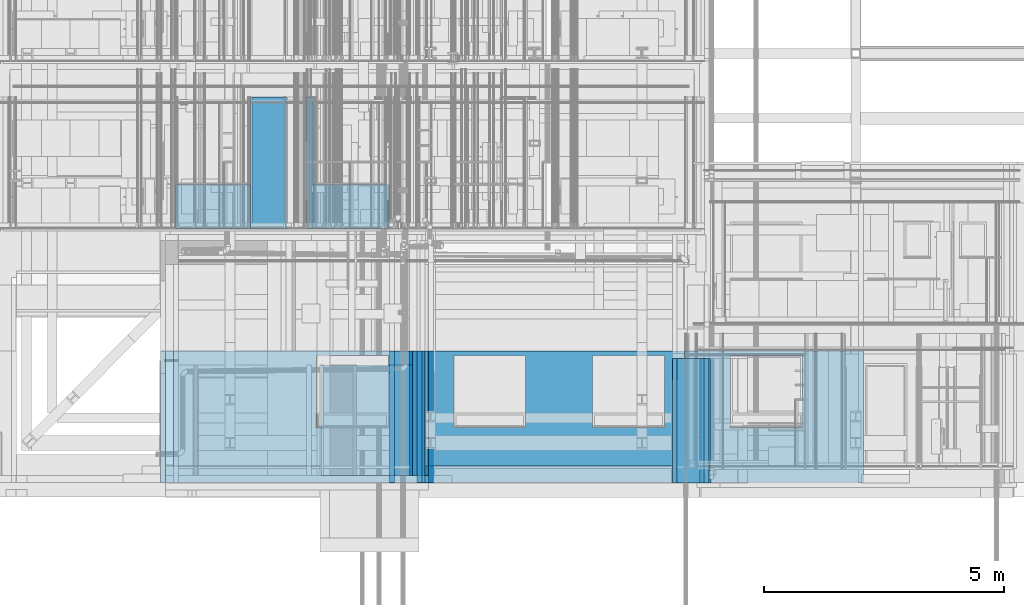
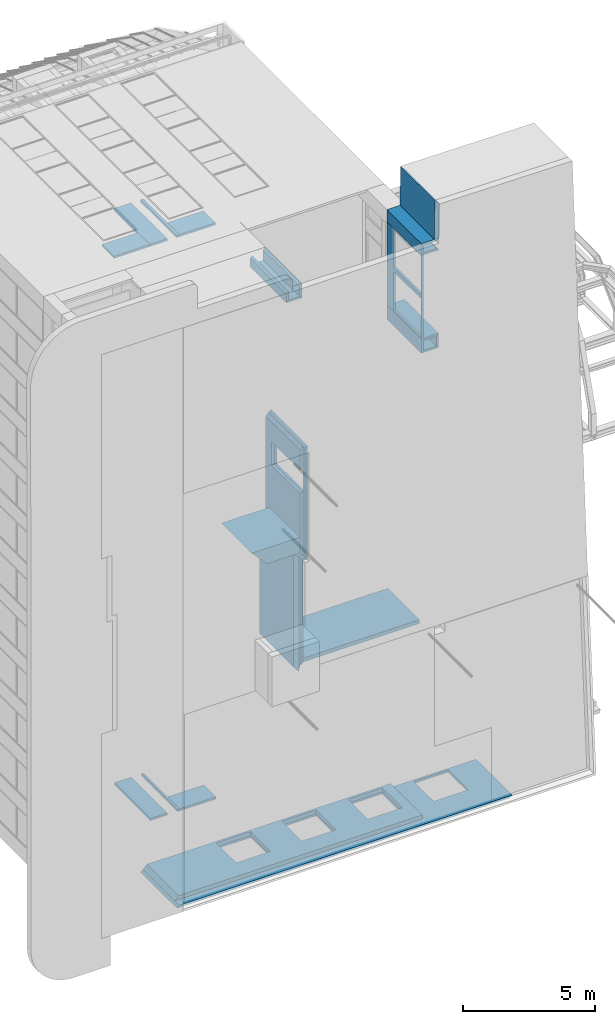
# One storey, part 12 of 583: 30 walls, 18 openings.
"""IFC2X3 building model written with IfcOpenShell, lengths in metres."""

from ifc_helpers import new_model, entity, si_unit, converted_unit, derived_unit, money_unit, direction, frame, frame_2d, origin_with_axes, place, context, subcontext, project, spatial, polyline, rectangle, outline, extrude, material, type_object, element, save


model = new_model("IFC2X3")

# Units and contexts
model_context = context("Model", 3, precision=1e-05, world=origin_with_axes(), true_north=direction((0.0, 1.0)))
body_context = subcontext(model_context, "Body", "Model", "MODEL_VIEW", scale=1.0)
ifc_project = project(units=[si_unit("LENGTHUNIT", "METRE"), si_unit("AREAUNIT", "SQUARE_METRE"), si_unit("VOLUMEUNIT", "CUBIC_METRE"), si_unit("ABSORBEDDOSEUNIT", "GRAY"), si_unit("AMOUNTOFSUBSTANCEUNIT", "MOLE"), si_unit("DOSEEQUIVALENTUNIT", "SIEVERT"), si_unit("ELECTRICCAPACITANCEUNIT", "FARAD"), si_unit("ELECTRICCHARGEUNIT", "COULOMB"), si_unit("ELECTRICCONDUCTANCEUNIT", "SIEMENS"), si_unit("ELECTRICCURRENTUNIT", "AMPERE"), si_unit("ELECTRICRESISTANCEUNIT", "OHM"), si_unit("ELECTRICVOLTAGEUNIT", "VOLT"), si_unit("ENERGYUNIT", "JOULE"), si_unit("FORCEUNIT", "NEWTON"), si_unit("FREQUENCYUNIT", "HERTZ"), si_unit("ILLUMINANCEUNIT", "LUX"), si_unit("INDUCTANCEUNIT", "HENRY"), si_unit("LUMINOUSFLUXUNIT", "LUMEN"), si_unit("LUMINOUSINTENSITYUNIT", "CANDELA"), si_unit("MAGNETICFLUXDENSITYUNIT", "TESLA"), si_unit("MAGNETICFLUXUNIT", "WEBER"), si_unit("MASSUNIT", "GRAM"), converted_unit("PLANEANGLEUNIT", "degree", entity("IfcReal", 0.0174532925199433), si_unit("PLANEANGLEUNIT", "RADIAN"), dimensions=[0, 0, 0, 0, 0, 0, 0]), si_unit("POWERUNIT", "WATT"), si_unit("PRESSUREUNIT", "PASCAL"), si_unit("RADIOACTIVITYUNIT", "BECQUEREL"), si_unit("SOLIDANGLEUNIT", "STERADIAN"), si_unit("THERMODYNAMICTEMPERATUREUNIT", "KELVIN"), si_unit("TIMEUNIT", "SECOND"), derived_unit("ACCELERATIONUNIT", [(si_unit("LENGTHUNIT", "METRE"), 1), (si_unit("TIMEUNIT", "SECOND"), -2)]), derived_unit("ANGULARVELOCITYUNIT", [(converted_unit("PLANEANGLEUNIT", "degree", entity("IfcReal", 0.0174532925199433), si_unit("PLANEANGLEUNIT", "RADIAN"), dimensions=[0, 0, 0, 0, 0, 0, 0]), 1), (si_unit("TIMEUNIT", "SECOND"), -1)]), derived_unit("CURVATUREUNIT", [(converted_unit("PLANEANGLEUNIT", "degree", entity("IfcReal", 0.0174532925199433), si_unit("PLANEANGLEUNIT", "RADIAN"), dimensions=[0, 0, 0, 0, 0, 0, 0]), 1), (si_unit("LENGTHUNIT", "METRE"), -1)]), derived_unit("DYNAMICVISCOSITYUNIT", [(si_unit("PRESSUREUNIT", "PASCAL"), 1), (si_unit("TIMEUNIT", "SECOND"), 1)]), derived_unit("HEATFLUXDENSITYUNIT", [(si_unit("POWERUNIT", "WATT"), 1), (si_unit("LENGTHUNIT", "METRE"), -2)]), derived_unit("HEATINGVALUEUNIT", [(si_unit("ENERGYUNIT", "JOULE"), 1), (si_unit("MASSUNIT", "GRAM"), -1)]), derived_unit("INTEGERCOUNTRATEUNIT", [(si_unit("TIMEUNIT", "SECOND"), -1)]), derived_unit("IONCONCENTRATIONUNIT", [(si_unit("MASSUNIT", "GRAM"), 1), (si_unit("VOLUMEUNIT", "CUBIC_METRE"), -1)]), derived_unit("ISOTHERMALMOISTURECAPACITYUNIT", [(si_unit("VOLUMEUNIT", "CUBIC_METRE"), 1), (si_unit("MASSUNIT", "GRAM"), -1)]), derived_unit("KINEMATICVISCOSITYUNIT", [(si_unit("AREAUNIT", "SQUARE_METRE"), 1), (si_unit("TIMEUNIT", "SECOND"), -1)]), derived_unit("LINEARFORCEUNIT", [(si_unit("FORCEUNIT", "NEWTON"), 1), (si_unit("LENGTHUNIT", "METRE"), -1)]), derived_unit("LINEARMOMENTUNIT", [(si_unit("FORCEUNIT", "NEWTON"), 1), (si_unit("LENGTHUNIT", "METRE"), -1)]), derived_unit("LINEARSTIFFNESSUNIT", [(si_unit("FORCEUNIT", "NEWTON"), 1), (si_unit("LENGTHUNIT", "METRE"), -1)]), derived_unit("LINEARVELOCITYUNIT", [(si_unit("LENGTHUNIT", "METRE"), 1), (si_unit("TIMEUNIT", "SECOND"), -1)]), derived_unit("LUMINOUSINTENSITYDISTRIBUTIONUNIT", [(si_unit("LUMINOUSINTENSITYUNIT", "CANDELA"), 1), (si_unit("LUMINOUSFLUXUNIT", "LUMEN"), -1)]), derived_unit("MASSDENSITYUNIT", [(si_unit("MASSUNIT", "GRAM"), 1), (si_unit("VOLUMEUNIT", "CUBIC_METRE"), -1)]), derived_unit("MASSFLOWRATEUNIT", [(si_unit("MASSUNIT", "GRAM"), 1), (si_unit("TIMEUNIT", "SECOND"), -1)]), derived_unit("MASSPERLENGTHUNIT", [(si_unit("MASSUNIT", "GRAM"), 1), (si_unit("LENGTHUNIT", "METRE"), -1)]), derived_unit("MODULUSOFELASTICITYUNIT", [(si_unit("FORCEUNIT", "NEWTON"), 1), (si_unit("AREAUNIT", "SQUARE_METRE"), -1)]), derived_unit("MODULUSOFLINEARSUBGRADEREACTIONUNIT", [(si_unit("FORCEUNIT", "NEWTON"), 1), (si_unit("LENGTHUNIT", "METRE"), -2)]), derived_unit("MODULUSOFROTATIONALSUBGRADEREACTIONUNIT", [(si_unit("FORCEUNIT", "NEWTON"), 1), (si_unit("LENGTHUNIT", "METRE"), 1)]), derived_unit("MODULUSOFSUBGRADEREACTIONUNIT", [(si_unit("FORCEUNIT", "NEWTON"), 1), (si_unit("VOLUMEUNIT", "CUBIC_METRE"), -1)]), derived_unit("MOISTUREDIFFUSIVITYUNIT", [(si_unit("VOLUMEUNIT", "CUBIC_METRE"), 1), (si_unit("TIMEUNIT", "SECOND"), -1)]), derived_unit("MOLECULARWEIGHTUNIT", [(si_unit("MASSUNIT", "GRAM"), 1), (si_unit("AMOUNTOFSUBSTANCEUNIT", "MOLE"), -1)]), derived_unit("PLANARFORCEUNIT", [(si_unit("FORCEUNIT", "NEWTON"), 1), (si_unit("LENGTHUNIT", "METRE"), -2)]), derived_unit("ROTATIONALFREQUENCYUNIT", [(si_unit("TIMEUNIT", "SECOND"), -1)]), derived_unit("ROTATIONALMASSUNIT", [(si_unit("MASSUNIT", "GRAM"), 1), (si_unit("LENGTHUNIT", "METRE"), 2)]), derived_unit("ROTATIONALSTIFFNESSUNIT", [(si_unit("FORCEUNIT", "NEWTON"), 1), (si_unit("LENGTHUNIT", "METRE"), 1), (converted_unit("PLANEANGLEUNIT", "degree", entity("IfcReal", 0.0174532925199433), si_unit("PLANEANGLEUNIT", "RADIAN"), dimensions=[0, 0, 0, 0, 0, 0, 0]), -1)]), derived_unit("SECTIONAREAINTEGRALUNIT", [(si_unit("LENGTHUNIT", "METRE"), 5)]), derived_unit("SECTIONMODULUSUNIT", [(si_unit("LENGTHUNIT", "METRE"), 3)]), derived_unit("SHEARMODULUSUNIT", [(si_unit("FORCEUNIT", "NEWTON"), 1), (si_unit("AREAUNIT", "SQUARE_METRE"), -1)]), derived_unit("SOUNDPOWERUNIT", [(si_unit("ENERGYUNIT", "JOULE"), 1), (si_unit("TIMEUNIT", "SECOND"), -1)]), derived_unit("SPECIFICHEATCAPACITYUNIT", [(si_unit("FORCEUNIT", "NEWTON"), 1), (si_unit("MASSUNIT", "GRAM"), -1), (si_unit("THERMODYNAMICTEMPERATUREUNIT", "KELVIN"), -1)]), derived_unit("TEMPERATUREGRADIENTUNIT", [(si_unit("THERMODYNAMICTEMPERATUREUNIT", "KELVIN"), 1), (si_unit("LENGTHUNIT", "METRE"), -1)]), derived_unit("THERMALADMITTANCEUNIT", [(si_unit("POWERUNIT", "WATT"), 1), (si_unit("AREAUNIT", "SQUARE_METRE"), -1), (si_unit("THERMODYNAMICTEMPERATUREUNIT", "KELVIN"), -1)]), derived_unit("THERMALCONDUCTANCEUNIT", [(si_unit("POWERUNIT", "WATT"), 1), (si_unit("LENGTHUNIT", "METRE"), -1), (si_unit("THERMODYNAMICTEMPERATUREUNIT", "KELVIN"), -1)]), derived_unit("THERMALEXPANSIONCOEFFICIENTUNIT", [(si_unit("THERMODYNAMICTEMPERATUREUNIT", "KELVIN"), -1)]), derived_unit("THERMALRESISTANCEUNIT", [(si_unit("AREAUNIT", "SQUARE_METRE"), 1), (si_unit("POWERUNIT", "WATT"), -1)]), derived_unit("THERMALTRANSMITTANCEUNIT", [(si_unit("POWERUNIT", "WATT"), 1), (si_unit("AREAUNIT", "SQUARE_METRE"), -1), (si_unit("THERMODYNAMICTEMPERATUREUNIT", "KELVIN"), -1)]), derived_unit("TORQUEUNIT", [(si_unit("FORCEUNIT", "NEWTON"), 1), (si_unit("LENGTHUNIT", "METRE"), 1)]), derived_unit("VAPORPERMEABILITYUNIT", [(si_unit("MASSUNIT", "GRAM"), 1), (si_unit("TIMEUNIT", "SECOND"), -1)]), derived_unit("VOLUMETRICFLOWRATEUNIT", [(si_unit("VOLUMEUNIT", "CUBIC_METRE"), 1), (si_unit("TIMEUNIT", "SECOND"), -1)]), derived_unit("WARPINGCONSTANTUNIT", [(si_unit("LENGTHUNIT", "METRE"), 6)]), derived_unit("WARPINGMOMENTUNIT", [(si_unit("FORCEUNIT", "NEWTON"), 1), (si_unit("LENGTHUNIT", "METRE"), 2)]), money_unit("GBP")], contexts=[model_context])

# Site, building, storey
site_placement = place(None, origin_with_axes())
site = spatial("IfcSite", under=ifc_project, at=site_placement, Name="Site", CompositionType="ELEMENT")
building_placement = place(site_placement, origin_with_axes())
building = spatial("IfcBuilding", under=site, at=building_placement, Name="Building01", CompositionType="ELEMENT")
storey_placement = place(building_placement, frame((0.0, 0.0, 20.78), z_axis=(0.0, 0.0, 1.0), x_axis=(1.0, 0.0, 0.0)))
storey = spatial("IfcBuildingStorey", under=building, at=storey_placement, Name="RL", CompositionType="ELEMENT", Elevation=20.78)

# Walls
ifc_material_1 = material(Name="A_BSUK_WallsExternal_Brick")
wall_type_1 = type_object("IfcWallType", Name="A-Walls-ExternalBrick", PredefinedType="NOTDEFINED")
wall_1_placement = place(storey_placement, frame((8.909531, -0.16, 6.201285), z_axis=(0.0, 1.0, 0.0), x_axis=(0.0, 0.0, -1.0)))
element("IfcWall", 1, at=wall_1_placement, inside=storey, type_object=wall_type_1, material=ifc_material_1, Name="A-Walls-ExternalBrick", ObjectType="A-Walls-ExternalBrick", context=body_context, shape_type="SweptSolid", body=[
    extrude(outline(polyline([(0.567106, 0.1), (0.1, 0.1), (0.0, 0.0), (0.667106, 0.0), (0.567106, 0.1)])), origin_with_axes(), (0.0, 0.0, 1.0), 2.76),
])
wall_2_placement = place(storey_placement, frame((8.909531, -0.16, 5.534179), z_axis=(0.0, 1.0, 0.0), x_axis=(-1.0, 0.0, 0.0)))
element("IfcWall", 2, at=wall_2_placement, inside=storey, type_object=wall_type_1, material=ifc_material_1, Name="A-Walls-ExternalBrick", ObjectType="A-Walls-ExternalBrick", context=body_context, shape_type="SweptSolid", body=[
    extrude(outline(polyline([(0.571773, 0.1), (0.1, 0.1), (0.0, 0.0), (0.671773, 0.0), (0.571773, 0.1)])), origin_with_axes(), (0.0, 0.0, 1.0), 2.76),
])
wall_3_placement = place(storey_placement, frame((8.237758, -0.16, 5.534179), z_axis=(0.0, 1.0, 0.0), x_axis=(0.0, 0.0, 1.0)))
element("IfcWall", 3, at=wall_3_placement, inside=storey, type_object=wall_type_1, material=ifc_material_1, Name="A-Walls-ExternalBrick", ObjectType="A-Walls-ExternalBrick", context=body_context, shape_type="SweptSolid", body=[
    extrude(outline(polyline([(0.481054, 0.1), (0.1, 0.1), (0.0, 0.0), (0.38105, 0.0), (0.481054, 0.1)])), origin_with_axes(), (0.0, 0.0, 1.0), 2.76),
])
wall_4_placement = place(storey_placement, frame((8.971346, -0.16, -6.607653), z_axis=(0.0, 1.0, 0.0), x_axis=(3.756e-05, 0.0, -1.0)))
element("IfcWall", 4, at=wall_4_placement, inside=storey, type_object=wall_type_1, material=ifc_material_1, Name="A-Walls-ExternalBrick", ObjectType="A-Walls-ExternalBrick", context=body_context, shape_type="SweptSolid", body=[
    extrude(outline(polyline([(4.829309, 0.1), (-0.1, 0.1), (0.0, 0.0), (4.729309, 0.0), (4.829309, 0.1)])), origin_with_axes(), (0.0, 0.0, 1.0), 2.76),
])

# Wall, openings
wall_5_placement = place(storey_placement, frame((18.020229, -0.145, -20.779323), z_axis=(0.0, 1.0, 0.0), x_axis=(-1.0, 0.0, -3.756e-05)))
wall_5 = element("IfcWall", 5, at=wall_5_placement, inside=storey, type_object=wall_type_1, material=ifc_material_1, Name="A-Walls-ExternalBrick", ObjectType="A-Walls-ExternalBrick", context=body_context, shape_type="SweptSolid", body=[
    extrude(outline(polyline([(14.460712, 0.1), (-0.100004, 0.1), (0.0, 0.0), (14.560712, 0.0), (14.460712, 0.1)])), origin_with_axes(), (0.0, 0.0, 1.0), 2.745),
])
opening_1_placement = place(wall_5_placement, frame((6.944761, 0.0, 1.143), z_axis=(0.0, 0.0, 1.0), x_axis=(1.0, 0.0, 0.0)))
element("IfcOpeningElement", 6, at=opening_1_placement, cuts=wall_5, Name="Opening", ObjectType="Opening", context=body_context, shape_type="SweptSolid", body=[
    extrude(rectangle(XDim=0.3, YDim=1.5, at=frame_2d((-0.75, 0.15), x_axis=(0.0, -1.0))), frame((0.0, 0.0, 0.0), z_axis=(0.0, 1.0, 0.0), x_axis=(-1.0, 0.0, 0.0)), (3.756e-05, 0.0, 1.0), 0.1),
])
opening_2_placement = place(wall_5_placement, frame((9.80949, 0.0, 1.443), z_axis=(0.0, 0.0, 1.0), x_axis=(1.0, 0.0, 0.0)))
element("IfcOpeningElement", 7, at=opening_2_placement, cuts=wall_5, Name="Opening", ObjectType="Opening", context=body_context, shape_type="SweptSolid", body=[
    extrude(rectangle(XDim=1.2, YDim=1.5, at=frame_2d((-0.75, 0.6), x_axis=(0.0, -1.0))), frame((0.0, 0.0, 0.0), z_axis=(0.0, 1.0, 0.0), x_axis=(-1.0, 0.0, 0.0)), (3.756e-05, 0.0, 1.0), 0.1),
])
opening_3_placement = place(wall_5_placement, frame((9.80949, 0.0, 1.143), z_axis=(0.0, 0.0, 1.0), x_axis=(1.0, 0.0, 0.0)))
element("IfcOpeningElement", 8, at=opening_3_placement, cuts=wall_5, Name="Opening", ObjectType="Opening", context=body_context, shape_type="SweptSolid", body=[
    extrude(rectangle(XDim=0.3, YDim=1.5, at=frame_2d((-0.75, 0.15), x_axis=(0.0, -1.0))), frame((0.0, 0.0, 0.0), z_axis=(0.0, 1.0, 0.0), x_axis=(-1.0, 0.0, 0.0)), (3.756e-05, 0.0, 1.0), 0.1),
])
opening_4_placement = place(wall_5_placement, frame((6.944761, 0.0, 1.443), z_axis=(0.0, 0.0, 1.0), x_axis=(1.0, 0.0, 0.0)))
element("IfcOpeningElement", 9, at=opening_4_placement, cuts=wall_5, Name="Opening", ObjectType="Opening", context=body_context, shape_type="SweptSolid", body=[
    extrude(rectangle(XDim=1.2, YDim=1.5, at=frame_2d((-0.75, 0.6), x_axis=(0.0, -1.0))), frame((0.0, 0.0, 0.0), z_axis=(0.0, 1.0, 0.0), x_axis=(-1.0, 0.0, 0.0)), (3.756e-05, 0.0, 1.0), 0.1),
])
opening_5_placement = place(wall_5_placement, frame((4.051236, 0.0, 1.143), z_axis=(0.0, 0.0, 1.0), x_axis=(1.0, 0.0, 0.0)))
element("IfcOpeningElement", 10, at=opening_5_placement, cuts=wall_5, Name="Opening", ObjectType="Opening", context=body_context, shape_type="SweptSolid", body=[
    extrude(rectangle(XDim=0.3, YDim=1.5, at=frame_2d((-0.75, 0.15), x_axis=(0.0, -1.0))), frame((0.0, 0.0, 0.0), z_axis=(0.0, 1.0, 0.0), x_axis=(-1.0, 0.0, 0.0)), (3.756e-05, 0.0, 1.0), 0.1),
])
opening_6_placement = place(wall_5_placement, frame((4.051236, 0.0, 1.443), z_axis=(0.0, 0.0, 1.0), x_axis=(1.0, 0.0, 0.0)))
element("IfcOpeningElement", 11, at=opening_6_placement, cuts=wall_5, Name="Opening", ObjectType="Opening", context=body_context, shape_type="SweptSolid", body=[
    extrude(rectangle(XDim=1.2, YDim=1.5, at=frame_2d((-0.75, 0.6), x_axis=(0.0, -1.0))), frame((0.0, 0.0, 0.0), z_axis=(0.0, 1.0, 0.0), x_axis=(-1.0, 0.0, 0.0)), (3.756e-05, 0.0, 1.0), 0.1),
])
opening_7_placement = place(wall_5_placement, frame((1.177439, 0.0, 1.443), z_axis=(0.0, 0.0, 1.0), x_axis=(1.0, 0.0, 0.0)))
element("IfcOpeningElement", 12, at=opening_7_placement, cuts=wall_5, Name="Opening", ObjectType="Opening", context=body_context, shape_type="SweptSolid", body=[
    extrude(rectangle(XDim=1.2, YDim=1.5, at=frame_2d((-0.75, 0.6), x_axis=(0.0, -1.0))), frame((0.0, 0.0, 0.0), z_axis=(0.0, 1.0, 0.0), x_axis=(-1.0, 0.0, 0.0)), (3.756e-05, 0.0, 1.0), 0.1),
])
opening_8_placement = place(wall_5_placement, frame((1.177439, 0.0, 1.143), z_axis=(0.0, 0.0, 1.0), x_axis=(1.0, 0.0, 0.0)))
element("IfcOpeningElement", 13, at=opening_8_placement, cuts=wall_5, Name="Opening", ObjectType="Opening", context=body_context, shape_type="SweptSolid", body=[
    extrude(rectangle(XDim=0.3, YDim=1.5, at=frame_2d((-0.75, 0.15), x_axis=(0.0, -1.0))), frame((0.0, 0.0, 0.0), z_axis=(0.0, 1.0, 0.0), x_axis=(-1.0, 0.0, 0.0)), (3.756e-05, 0.0, 1.0), 0.1),
])

# Walls
wall_6_placement = place(storey_placement, frame((14.897172, -0.16, 1.791797), z_axis=(0.0, 1.0, 0.0), x_axis=(0.0, 0.0, -1.0)))
element("IfcWall", 14, at=wall_6_placement, inside=storey, type_object=wall_type_1, material=ifc_material_1, Name="A-Walls-ExternalBrick", ObjectType="A-Walls-ExternalBrick", context=body_context, shape_type="SweptSolid", body=[
    extrude(outline(polyline([(0.553641, 0.1), (0.0993, 0.1), (0.0, 0.0), (0.653638, 0.0), (0.553641, 0.1)])), origin_with_axes(), (0.0, 0.0, 1.0), 2.6),
])
wall_7_placement = place(storey_placement, frame((14.897172, -0.16, 1.13816), z_axis=(0.0, 1.0, 0.0), x_axis=(-1.0, 0.0, -3.756e-05)))
element("IfcWall", 15, at=wall_7_placement, inside=storey, type_object=wall_type_1, material=ifc_material_1, Name="A-Walls-ExternalBrick", ObjectType="A-Walls-ExternalBrick", context=body_context, shape_type="SweptSolid", body=[
    extrude(outline(polyline([(0.662872, 0.1), (0.099996, 0.1), (0.0, 0.0), (0.762876, 0.0), (0.662872, 0.1)])), origin_with_axes(), (0.0, 0.0, 1.0), 2.6),
])
wall_8_placement = place(storey_placement, frame((14.134296, -0.16, 1.138131), z_axis=(0.0, 1.0, 0.0), x_axis=(0.0, 0.0, 1.0)))
element("IfcWall", 16, at=wall_8_placement, inside=storey, type_object=wall_type_1, material=ifc_material_1, Name="A-Walls-ExternalBrick", ObjectType="A-Walls-ExternalBrick", context=body_context, shape_type="SweptSolid", body=[
    extrude(outline(polyline([(0.558318, 0.1), (0.100004, 0.1), (0.0, 0.0), (0.659023, 0.0), (0.558318, 0.1)])), origin_with_axes(), (0.0, 0.0, 1.0), 2.6),
])
wall_9_placement = place(storey_placement, frame((14.134296, -0.16, 1.797154), z_axis=(0.0, 1.0, 0.0), x_axis=(0.99997535, 0.0, -0.00702115)))
element("IfcWall", 17, at=wall_9_placement, inside=storey, type_object=wall_type_1, material=ifc_material_1, Name="A-Walls-ExternalBrick", ObjectType="A-Walls-ExternalBrick", context=body_context, shape_type="SweptSolid", body=[
    extrude(outline(polyline([(0.663594, 0.1), (0.100705, 0.1), (0.0, 0.0), (0.762895, 0.0), (0.663594, 0.1)])), origin_with_axes(), (0.0, 0.0, 1.0), 2.6),
])
wall_10_placement = place(storey_placement, frame((14.906552, -0.16, 5.649767), z_axis=(0.0, 1.0, 0.0), x_axis=(-1.0, 0.0, -5.782e-05)))
element("IfcWall", 18, at=wall_10_placement, inside=storey, type_object=wall_type_1, material=ifc_material_1, Name="A-Walls-ExternalBrick", ObjectType="A-Walls-ExternalBrick", context=body_context, shape_type="SweptSolid", body=[
    extrude(outline(polyline([(0.672426, 0.1), (0.09852, 0.1), (0.0, 0.0), (0.772426, 0.0), (0.672426, 0.1)])), origin_with_axes(), (0.0, 0.0, 1.0), 2.6),
])
wall_11_placement = place(storey_placement, frame((14.134126, -0.16, 5.649722), z_axis=(0.0, 1.0, 0.0), x_axis=(-5.782e-05, 0.0, 1.0)))
element("IfcWall", 19, at=wall_11_placement, inside=storey, type_object=wall_type_1, material=ifc_material_1, Name="A-Walls-ExternalBrick", ObjectType="A-Walls-ExternalBrick", context=body_context, shape_type="SweptSolid", body=[
    extrude(outline(polyline([(0.451923, 0.1), (0.1, 0.1), (0.0, 0.0), (0.551917, 0.0), (0.451923, 0.1)])), origin_with_axes(), (0.0, 0.0, 1.0), 2.6),
])
wall_12_placement = place(storey_placement, frame((14.134094, -0.16, 6.201639), z_axis=(0.0, 1.0, 0.0), x_axis=(0.99999999, 0.0, 0.00011969)))
element("IfcWall", 20, at=wall_12_placement, inside=storey, type_object=wall_type_1, material=ifc_material_1, Name="A-Walls-ExternalBrick", ObjectType="A-Walls-ExternalBrick", context=body_context, shape_type="SweptSolid", body=[
    extrude(outline(polyline([(0.679146, 0.1), (0.099994, 0.1), (0.0, 0.0), (0.780654, 0.0), (0.679146, 0.1)])), origin_with_axes(), (0.0, 0.0, 1.0), 2.6),
])

# Wall, openings
wall_13_placement = place(storey_placement, frame((14.134271, -0.16, 1.797154), z_axis=(0.0, 1.0, 0.0), x_axis=(-3.756e-05, 0.0, 1.0)))
wall_13 = element("IfcWall", 21, at=wall_13_placement, inside=storey, type_object=wall_type_1, material=ifc_material_1, Name="A-Walls-ExternalBrick", ObjectType="A-Walls-ExternalBrick", context=body_context, shape_type="SweptSolid", body=[
    extrude(outline(polyline([(3.85257, 0.1), (-0.000706, 0.1), (0.0, 0.0), (3.852568, 0.0), (3.85257, 0.1)])), origin_with_axes(), (0.0, 0.0, 1.0), 2.6),
])
opening_9_placement = place(wall_13_placement, frame((0.057998, 0.1, 0.023), z_axis=(0.0, 0.0, 1.0), x_axis=(1.0, 0.0, 0.0)))
element("IfcOpeningElement", 22, at=opening_9_placement, cuts=wall_13, Name="Opening", ObjectType="Opening", context=body_context, shape_type="SweptSolid", body=[
    extrude(rectangle(XDim=2.1, YDim=1.784, at=frame_2d((0.892, 1.05), x_axis=(0.0, -1.0))), frame((0.0, 0.0, 0.0), z_axis=(0.0, -1.0, 0.0), x_axis=(1.0, 0.0, 0.0)), (0.0, 0.0, 1.0), 0.1),
])
opening_10_placement = place(wall_13_placement, frame((2.043034, 0.1, 0.023), z_axis=(0.0, 0.0, 1.0), x_axis=(1.0, 0.0, 0.0)))
element("IfcOpeningElement", 23, at=opening_10_placement, cuts=wall_13, Name="Opening", ObjectType="Opening", context=body_context, shape_type="SweptSolid", body=[
    extrude(rectangle(XDim=2.1, YDim=1.784, at=frame_2d((0.892, 1.05), x_axis=(0.0, -1.0))), frame((0.0, 0.0, 0.0), z_axis=(0.0, -1.0, 0.0), x_axis=(1.0, 0.0, 0.0)), (0.0, 0.0, 1.0), 0.1),
])

# Wall
wall_14_placement = place(storey_placement, frame((14.702806, -0.16, 6.201707), z_axis=(0.0, 1.0, 0.0), x_axis=(0.01444505, 0.0, 0.99989566)))
element("IfcWall", 24, at=wall_14_placement, inside=storey, type_object=wall_type_1, material=ifc_material_1, Name="A-Walls-ExternalBrick", ObjectType="A-Walls-ExternalBrick", context=body_context, shape_type="SweptSolid", body=[
    extrude(outline(polyline([(1.587336, 0.215), (0.003132, 0.215), (0.0, 0.0), (1.800808, 0.0), (1.587336, 0.215)])), origin_with_axes(), (0.0, 0.0, 1.0), 2.6),
])

# Wall, opening
ifc_material_2 = material(Name="A_BSUK_WallsExternal_Block")
wall_type_2 = type_object("IfcWallType", Name="A-Walls-ExternalBlock", PredefinedType="NOTDEFINED")
wall_15_placement = place(storey_placement, frame((9.152854, -0.16, -1.377025), z_axis=(0.0, 1.0, 0.0), x_axis=(3.756e-05, 0.0, -1.0)))
wall_15 = element("IfcWall", 25, at=wall_15_placement, inside=storey, type_object=wall_type_2, material=ifc_material_2, Name="A-Walls-ExternalBlock", ObjectType="A-Walls-ExternalBlock", context=body_context, shape_type="SweptSolid", body=[
    extrude(outline(polyline([(5.130622, 0.1), (0.1, 0.1), (0.0, 0.0), (5.230622, 0.0), (5.130622, 0.1)])), origin_with_axes(), (0.0, 0.0, 1.0), 2.76),
])
opening_11_placement = place(wall_15_placement, frame((1.142409, 0.0, 0.16), z_axis=(0.0, 0.0, 1.0), x_axis=(1.0, 0.0, 0.0)))
element("IfcOpeningElement", 26, at=opening_11_placement, cuts=wall_15, Name="Opening", ObjectType="Opening", context=body_context, shape_type="SweptSolid", body=[
    extrude(rectangle(XDim=1.084, YDim=2.142, at=frame_2d((-0.542, 1.071), x_axis=(-1.0, 0.0))), frame((0.0, 0.0, 0.0), z_axis=(0.0, 1.0, 0.0), x_axis=(-1.0, 0.0, 0.0)), (3.756e-05, 0.0, 1.0), 0.1),
])

# Walls
wall_16_placement = place(storey_placement, frame((9.15305, -0.16, -6.607646), z_axis=(0.0, 1.0, 0.0), x_axis=(-1.0, 0.0, -3.756e-05)))
element("IfcWall", 27, at=wall_16_placement, inside=storey, type_object=wall_type_2, material=ifc_material_2, Name="A-Walls-ExternalBlock", ObjectType="A-Walls-ExternalBlock", context=body_context, shape_type="SweptSolid", body=[
    extrude(outline(polyline([(0.281704, 0.1), (0.1, 0.1), (0.0, 0.0), (0.181704, 0.0), (0.281704, 0.1)])), origin_with_axes(), (0.0, 0.0, 1.0), 2.76),
])
wall_17_placement = place(storey_placement, frame((14.271539, 0.198, -11.606873), z_axis=(0.0, 1.0, 0.0), x_axis=(-1.0, 0.0, 0.0)))
element("IfcWall", 28, at=wall_17_placement, inside=storey, type_object=wall_type_2, material=ifc_material_2, Name="A-Walls-ExternalBlock", ObjectType="A-Walls-ExternalBlock", context=body_context, shape_type="SweptSolid", body=[
    extrude(outline(polyline([(5.400398, 0.17), (0.0, 0.17), (0.0, 0.0), (5.236398, 0.0), (5.400398, 0.17)])), origin_with_axes(), (0.0, 0.0, 1.0), 2.402),
])
wall_18_placement = place(storey_placement, frame((9.035141, 0.198, -11.606873), z_axis=(0.0, 1.0, 0.0), x_axis=(0.0, 0.0, -1.0)))
element("IfcWall", 29, at=wall_18_placement, inside=storey, type_object=wall_type_2, material=ifc_material_2, Name="A-Walls-ExternalBlock", ObjectType="A-Walls-ExternalBlock", context=body_context, shape_type="SweptSolid", body=[
    extrude(outline(polyline([(-0.17, 0.164), (0.0, 0.0), (0.207627, 0.0), (0.207627, 0.164), (-0.17, 0.164)])), origin_with_axes(), (0.0, 0.0, 1.0), 2.402),
])

# Wall, openings
wall_19_placement = place(storey_placement, frame((3.733332, 0.198, -20.499643), z_axis=(0.0, 1.0, 0.0), x_axis=(1.0, 0.0, 3.756e-05)))
wall_19 = element("IfcWall", 30, at=wall_19_placement, inside=storey, type_object=wall_type_2, material=ifc_material_2, Name="A-Walls-ExternalBlock", ObjectType="A-Walls-ExternalBlock", context=body_context, shape_type="SweptSolid", body=[
    extrude(outline(polyline([(10.65662, 0.18), (-0.174007, 0.18), (0.0, 0.0), (10.65662, 0.0), (10.65662, 0.18)])), origin_with_axes(), (0.0, 0.0, 1.0), 2.402),
])
opening_12_placement = place(wall_19_placement, frame((5.842129, 0.18, 0.8), z_axis=(0.0, 0.0, 1.0), x_axis=(1.0, 0.0, 0.0)))
element("IfcOpeningElement", 31, at=opening_12_placement, cuts=wall_19, Name="Opening", ObjectType="Opening", context=body_context, shape_type="SweptSolid", body=[
    extrude(rectangle(XDim=0.3, YDim=1.5, at=frame_2d((0.75, 0.15), x_axis=(0.0, -1.0))), frame((0.0, 0.0, 0.0), z_axis=(0.0, -1.0, 0.0), x_axis=(1.0, 0.0, 0.0)), (3.756e-05, 0.0, 1.0), 0.18),
])
opening_13_placement = place(wall_19_placement, frame((8.735654, 0.18, 0.8), z_axis=(0.0, 0.0, 1.0), x_axis=(1.0, 0.0, 0.0)))
element("IfcOpeningElement", 32, at=opening_13_placement, cuts=wall_19, Name="Opening", ObjectType="Opening", context=body_context, shape_type="SweptSolid", body=[
    extrude(rectangle(XDim=0.3, YDim=1.5, at=frame_2d((0.75, 0.15), x_axis=(0.0, -1.0))), frame((0.0, 0.0, 0.0), z_axis=(0.0, -1.0, 0.0), x_axis=(1.0, 0.0, 0.0)), (3.756e-05, 0.0, 1.0), 0.18),
])
opening_14_placement = place(wall_19_placement, frame((2.977399, 0.18, 0.8), z_axis=(0.0, 0.0, 1.0), x_axis=(1.0, 0.0, 0.0)))
element("IfcOpeningElement", 33, at=opening_14_placement, cuts=wall_19, Name="Opening", ObjectType="Opening", context=body_context, shape_type="SweptSolid", body=[
    extrude(rectangle(XDim=0.3, YDim=1.5, at=frame_2d((0.75, 0.15), x_axis=(0.0, -1.0))), frame((0.0, 0.0, 0.0), z_axis=(0.0, -1.0, 0.0), x_axis=(1.0, 0.0, 0.0)), (3.756e-05, 0.0, 1.0), 0.18),
])
opening_15_placement = place(wall_19_placement, frame((2.977399, 0.18, 1.1), z_axis=(0.0, 0.0, 1.0), x_axis=(1.0, 0.0, 0.0)))
element("IfcOpeningElement", 34, at=opening_15_placement, cuts=wall_19, Name="Opening", ObjectType="Opening", context=body_context, shape_type="SweptSolid", body=[
    extrude(rectangle(XDim=1.2, YDim=1.5, at=frame_2d((0.75, 0.6), x_axis=(0.0, -1.0))), frame((0.0, 0.0, 0.0), z_axis=(0.0, -1.0, 0.0), x_axis=(1.0, 0.0, 0.0)), (3.756e-05, 0.0, 1.0), 0.18),
])
opening_16_placement = place(wall_19_placement, frame((5.842129, 0.18, 1.1), z_axis=(0.0, 0.0, 1.0), x_axis=(1.0, 0.0, 0.0)))
element("IfcOpeningElement", 35, at=opening_16_placement, cuts=wall_19, Name="Opening", ObjectType="Opening", context=body_context, shape_type="SweptSolid", body=[
    extrude(rectangle(XDim=1.2, YDim=1.5, at=frame_2d((0.75, 0.6), x_axis=(0.0, -1.0))), frame((0.0, 0.0, 0.0), z_axis=(0.0, -1.0, 0.0), x_axis=(1.0, 0.0, 0.0)), (3.756e-05, 0.0, 1.0), 0.18),
])
opening_17_placement = place(wall_19_placement, frame((8.735654, 0.18, 1.1), z_axis=(0.0, 0.0, 1.0), x_axis=(1.0, 0.0, 0.0)))
element("IfcOpeningElement", 36, at=opening_17_placement, cuts=wall_19, Name="Opening", ObjectType="Opening", context=body_context, shape_type="SweptSolid", body=[
    extrude(rectangle(XDim=1.2, YDim=1.5, at=frame_2d((0.75, 0.6), x_axis=(0.0, -1.0))), frame((0.0, 0.0, 0.0), z_axis=(0.0, -1.0, 0.0), x_axis=(1.0, 0.0, 0.0)), (3.756e-05, 0.0, 1.0), 0.18),
])

# Walls
wall_20_placement = place(storey_placement, frame((9.053145, 0.0, -6.50765), z_axis=(0.0, 1.0, 0.0), x_axis=(-1.0, 0.0, 0.0)))
element("IfcWall", 37, at=wall_20_placement, inside=storey, type_object=wall_type_2, material=ifc_material_2, Name="A-Walls-ExternalBlock", ObjectType="A-Walls-ExternalBlock", context=body_context, shape_type="SweptSolid", body=[
    extrude(outline(polyline([(0.405736, 0.159), (0.131, 0.159), (0.0, 0.0), (0.181736, 0.0), (0.405736, 0.159)])), origin_with_axes(), (0.0, 0.0, 1.0), 2.6),
])
wall_21_placement = place(storey_placement, frame((8.64741, 0.0, -11.550001), z_axis=(0.0, 1.0, 0.0), x_axis=(0.0, 0.0, 1.0)))
element("IfcWall", 38, at=wall_21_placement, inside=storey, type_object=wall_type_2, material=ifc_material_2, Name="A-Walls-ExternalBlock", ObjectType="A-Walls-ExternalBlock", context=body_context, shape_type="SweptSolid", body=[
    extrude(outline(polyline([(5.042351, 0.224), (-0.264901, 0.224), (0.0, 0.0), (5.201351, 0.0), (5.042351, 0.224)])), origin_with_axes(), (0.0, 0.0, 1.0), 2.6),
])

# Wall, opening
wall_22_placement = place(storey_placement, frame((8.922145, 0.0, -6.34865), z_axis=(0.0, 1.0, 0.0), x_axis=(0.0, 0.0, 1.0)))
wall_22 = element("IfcWall", 39, at=wall_22_placement, inside=storey, type_object=wall_type_2, material=ifc_material_2, Name="A-Walls-ExternalBlock", ObjectType="A-Walls-ExternalBlock", context=body_context, shape_type="SweptSolid", body=[
    extrude(outline(polyline([(4.871617, 0.131), (-0.159, 0.131), (0.0, 0.0), (4.733617, 0.0), (4.871617, 0.131)])), origin_with_axes(), (0.0, 0.0, 1.0), 2.6),
])
opening_18_placement = place(wall_22_placement, frame((2.745216, 0.131, 0.0), z_axis=(0.0, 0.0, 1.0), x_axis=(1.0, 0.0, 0.0)))
element("IfcOpeningElement", 40, at=opening_18_placement, cuts=wall_22, Name="Opening", ObjectType="Opening", context=body_context, shape_type="SweptSolid", body=[
    extrude(rectangle(XDim=1.084, YDim=2.142, at=frame_2d((0.542, 1.071), x_axis=(-1.0, 0.0))), frame((0.0, 0.0, 0.0), z_axis=(0.0, -1.0, 0.0), x_axis=(1.0, 0.0, 0.0)), (0.0, 0.0, 1.0), 0.131),
])

# Walls
wall_23_placement = place(storey_placement, frame((8.233, 5.15, -20.61), z_axis=(0.0, 1.0, 0.0), x_axis=(-1.0, 0.0, 0.0)))
element("IfcWall", 41, at=wall_23_placement, inside=storey, type_object=wall_type_2, material=ifc_material_2, Name="A-Walls-ExternalBlock", ObjectType="A-Walls-ExternalBlock", context=body_context, shape_type="SweptSolid", body=[
    extrude(rectangle(XDim=1.58882, YDim=0.1, at=frame_2d((0.79441, 0.05), x_axis=(1.0, 0.0))), origin_with_axes(), (0.0, 0.0, 1.0), 0.915),
])
wall_24_placement = place(storey_placement, frame((6.64418, 5.15, -20.61), z_axis=(0.0, 1.0, 0.0), x_axis=(-1.0, 0.0, 0.0)))
element("IfcWall", 42, at=wall_24_placement, inside=storey, type_object=wall_type_2, material=ifc_material_2, Name="A-Walls-ExternalBlock", ObjectType="A-Walls-ExternalBlock", context=body_context, shape_type="SweptSolid", body=[
    extrude(rectangle(XDim=0.09618, YDim=0.1, at=frame_2d((0.04809, 0.05), x_axis=(-1.0, 0.0))), origin_with_axes(), (0.0, 0.0, 1.0), 2.74),
])
wall_25_placement = place(storey_placement, frame((6.1, 5.15, -20.61), z_axis=(0.0, 1.0, 0.0), x_axis=(-1.0, 0.0, 0.0)))
element("IfcWall", 43, at=wall_25_placement, inside=storey, type_object=wall_type_2, material=ifc_material_2, Name="A-Walls-ExternalBlock", ObjectType="A-Walls-ExternalBlock", context=body_context, shape_type="SweptSolid", body=[
    extrude(rectangle(XDim=0.737, YDim=0.1, at=frame_2d((0.3685, 0.05), x_axis=(-1.0, 0.0))), origin_with_axes(), (0.0, 0.0, 1.0), 2.74),
])
wall_26_placement = place(storey_placement, frame((6.634304, 5.15, 5.93), z_axis=(0.0, 1.0, 0.0), x_axis=(-1.0, 0.0, 0.0)))
element("IfcWall", 44, at=wall_26_placement, inside=storey, type_object=wall_type_2, material=ifc_material_2, Name="A-Walls-ExternalBlock", ObjectType="A-Walls-ExternalBlock", context=body_context, shape_type="SweptSolid", body=[
    extrude(rectangle(XDim=0.1, YDim=0.134304, at=frame_2d((0.067152, 0.05), x_axis=(0.0, -1.0))), origin_with_axes(), (0.0, 0.0, 1.0), 2.74),
])
wall_27_placement = place(storey_placement, frame((6.1, 5.15, 5.93), z_axis=(0.0, 1.0, 0.0), x_axis=(-1.0, 0.0, 0.0)))
element("IfcWall", 45, at=wall_27_placement, inside=storey, type_object=wall_type_2, material=ifc_material_2, Name="A-Walls-ExternalBlock", ObjectType="A-Walls-ExternalBlock", context=body_context, shape_type="SweptSolid", body=[
    extrude(rectangle(XDim=0.75982, YDim=0.1, at=frame_2d((0.37991, 0.05), x_axis=(-1.0, 0.0))), origin_with_axes(), (0.0, 0.0, 1.0), 2.74),
])
wall_28_placement = place(storey_placement, frame((5.34018, 5.15, 5.93), z_axis=(0.0, 1.0, 0.0), x_axis=(-1.0, 0.0, 0.0)))
element("IfcWall", 46, at=wall_28_placement, inside=storey, type_object=wall_type_2, material=ifc_material_2, Name="A-Walls-ExternalBlock", ObjectType="A-Walls-ExternalBlock", context=body_context, shape_type="SweptSolid", body=[
    extrude(rectangle(XDim=1.566, YDim=0.1, at=frame_2d((0.783, 0.05), x_axis=(1.0, 0.0))), origin_with_axes(), (0.0, 0.0, 1.0), 0.915),
])
wall_29_placement = place(storey_placement, frame((8.200304, 5.15, 5.93), z_axis=(0.0, 1.0, 0.0), x_axis=(-1.0, 0.0, 0.0)))
element("IfcWall", 47, at=wall_29_placement, inside=storey, type_object=wall_type_2, material=ifc_material_2, Name="A-Walls-ExternalBlock", ObjectType="A-Walls-ExternalBlock", context=body_context, shape_type="SweptSolid", body=[
    extrude(rectangle(XDim=1.565978, YDim=0.1, at=frame_2d((0.782989, 0.05), x_axis=(1.0, 0.0))), origin_with_axes(), (0.0, 0.0, 1.0), 0.915),
])
ifc_material_3 = material(Name="A_BSUK_WallsInternal")
wall_type_3 = type_object("IfcWallType", Name="A-Walls-Internal", PredefinedType="NOTDEFINED")
wall_30_placement = place(storey_placement, frame((6.814616, 0.0, -5.637495), z_axis=(0.0, 1.0, 0.0), x_axis=(1.0, 0.0, 0.0)))
element("IfcWall", 48, at=wall_30_placement, inside=storey, type_object=wall_type_3, material=ifc_material_3, Name="A-Walls-Internal", ObjectType="A-Walls-Internal", context=body_context, shape_type="SweptSolid", body=[
    extrude(outline(polyline([(2.107529, 0.711), (0.66, 0.711), (0.0, 0.0), (2.107529, 0.0), (2.107529, 0.711)])), origin_with_axes(), (0.0, 0.0, 1.0), 2.3),
])

save(model, "model.ifc")
